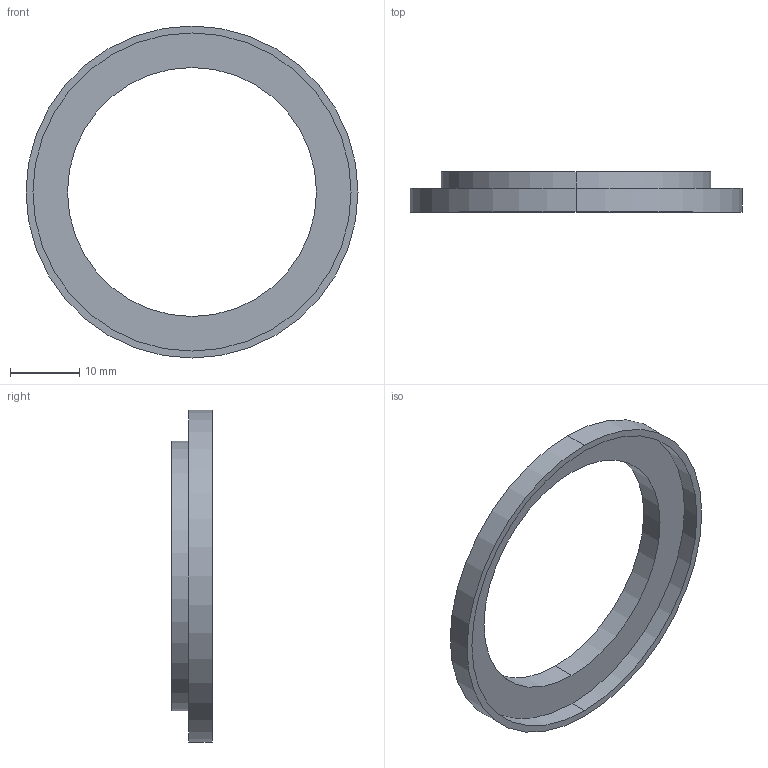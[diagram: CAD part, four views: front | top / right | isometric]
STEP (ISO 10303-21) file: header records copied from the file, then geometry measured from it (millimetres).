
FILE_DESCRIPTION (( 'STEP AP214' ), '1' );
FILE_NAME ('SU39-46.STEP', '2019-04-03T14:56:54', ( '' ), ( '' ), 'SwSTEP 2.0', 'SolidWorks 2019', '' );
FILE_SCHEMA (( 'AUTOMOTIVE_DESIGN' ));
Length unit declared in the file: millimetre
Products named in the file (1): SU39-46
Bounding box: 48 x 5.85 x 48 mm (x, y, z)
Volume: 1513.7 mm3; surface area: 3138.2 mm2
Topology: 1 solids, 1 shells, 12 faces, 24 edges, 16 vertices
Faces by surface type: cylinder 8, plane 4
Entity records: 362 total; most frequent: DIRECTION 66, CARTESIAN_POINT 53, ORIENTED_EDGE 48, AXIS2_PLACEMENT_3D 29, EDGE_CURVE 24, EDGE_LOOP 16, CIRCLE 16, VERTEX_POINT 16
